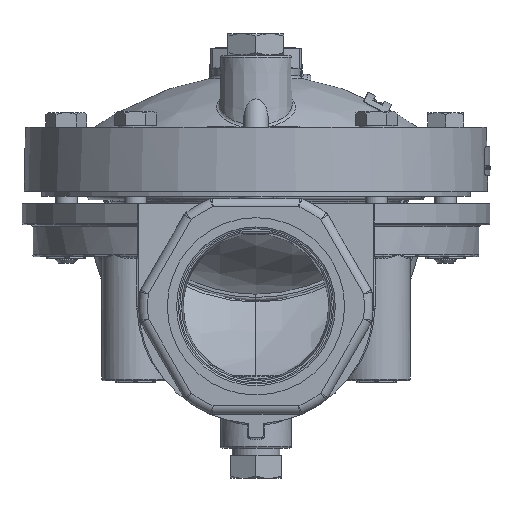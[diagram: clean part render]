
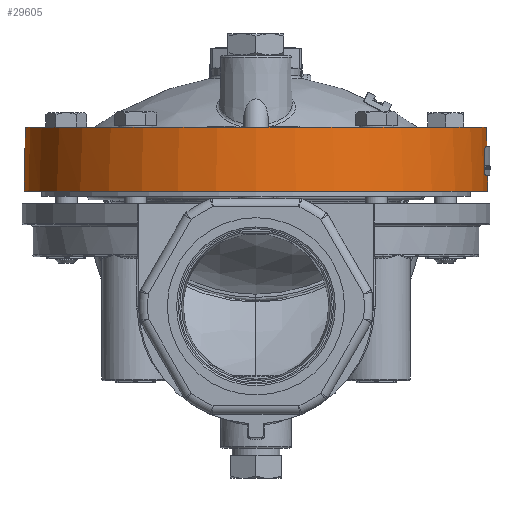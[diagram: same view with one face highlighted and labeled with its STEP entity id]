
A CAD part, left-side view. The second image highlights one B-rep face of the part: STEP entity #29605.
In plain terms, the highlighted conical face has half-angle 1 degrees and reference radius 65.416 mm.
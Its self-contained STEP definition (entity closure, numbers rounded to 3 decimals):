
#26512=CARTESIAN_POINT('',(65.339,2.828,0.));
#26513=VERTEX_POINT('Vertex746',#26512);
#26523=CARTESIAN_POINT('',(65.026,2.789,18.));
#26524=VERTEX_POINT('Vertex747',#26523);
#26525=CARTESIAN_POINT('',(65.182,2.808,9.));
#26526=DIRECTION('',(-0.017,-0.002,1.
));
#26527=VECTOR('',#26526,1.);
#26528=LINE('',#26525,#26527);
#26529=EDGE_CURVE('Edge1123',#26513,#26524,#26528,.T.);
#26531=CARTESIAN_POINT('',(65.018,2.787,18.491)
);
#26532=VERTEX_POINT('Vertex748',#26531);
#26533=CARTESIAN_POINT('',(65.022,2.788,18.246)
);
#26534=DIRECTION('',(-0.017,-0.002,1.
));
#26535=VECTOR('',#26534,1.);
#26536=LINE('',#26533,#26535);
#26537=EDGE_CURVE('Edge1124',#26524,#26532,#26536,.T.);
#26770=CARTESIAN_POINT('',(65.018,-2.787,18.491)
);
#26771=VERTEX_POINT('Vertex743',#26770);
#26779=CARTESIAN_POINT('',(65.026,-2.789,18.));
#26780=VERTEX_POINT('Vertex744',#26779);
#26781=CARTESIAN_POINT('',(65.022,-2.788,18.246)
);
#26782=DIRECTION('',(0.017,-0.002,-1.
));
#26783=VECTOR('',#26782,1.);
#26784=LINE('',#26781,#26783);
#26785=EDGE_CURVE('Edge1120',#26771,#26780,#26784,.T.);
#26787=CARTESIAN_POINT('',(65.339,-2.828,0.));
#26788=VERTEX_POINT('Vertex745',#26787);
#26789=CARTESIAN_POINT('',(65.182,-2.808,9.));
#26790=DIRECTION('',(0.017,-0.002,-1.
));
#26791=VECTOR('',#26790,1.);
#26792=LINE('',#26789,#26791);
#26793=EDGE_CURVE('Edge1121',#26780,#26788,#26792,.T.);
#28580=CARTESIAN_POINT('',(64.898,-4.943,18.));
#28581=VERTEX_POINT('Vertex855',#28580);
#28589=CARTESIAN_POINT('',(64.898,-4.943,18.));
#28590=CARTESIAN_POINT('',(64.905,-4.843,18.)
);
#28591=CARTESIAN_POINT('',(64.913,-4.741,18.002)
);
#28592=CARTESIAN_POINT('',(64.955,-4.148,18.03)
);
#28593=CARTESIAN_POINT('',(64.981,-3.675,18.104)
);
#28594=CARTESIAN_POINT('',(65.003,-3.212,18.225)
);
#28595=CARTESIAN_POINT('',(65.011,-3.027,18.28)
);
#28596=CARTESIAN_POINT('',(65.016,-2.878,18.367)
);
#28597=CARTESIAN_POINT('',(65.017,-2.847,18.389)
);
#28598=CARTESIAN_POINT('',(65.018,-2.812,18.426)
);
#28599=CARTESIAN_POINT('',(65.018,-2.801,18.441)
);
#28600=CARTESIAN_POINT('',(65.018,-2.79,18.468)
);
#28601=CARTESIAN_POINT('',(65.018,-2.787,18.479)
);
#28602=CARTESIAN_POINT('',(65.018,-2.787,18.491)
);
#28603=B_SPLINE_CURVE_WITH_KNOTS('',3,(#28589,#28590,#28591,#28592,#28593,
#28594,#28595,#28596,#28597,#28598,#28599,#28600,#28601,#28602),.UNSPECIFIED.,
.F.,.F.,(4,2,2,2,2,2,4),(5.485,5.85,7.571,
8.215,8.373,8.455,8.512),
.UNSPECIFIED.);
#28604=EDGE_CURVE('Edge1253',#28581,#26771,#28603,.T.);
#29332=CARTESIAN_POINT('',(64.898,4.943,18.));
#29333=VERTEX_POINT('Vertex873',#29332);
#29334=CARTESIAN_POINT('',(65.018,2.787,18.491)
);
#29335=CARTESIAN_POINT('',(65.018,2.787,18.489)
);
#29336=CARTESIAN_POINT('',(65.018,2.788,18.487)
);
#29337=CARTESIAN_POINT('',(65.018,2.789,18.473));
#29338=CARTESIAN_POINT('',(65.018,2.792,18.462));
#29339=CARTESIAN_POINT('',(65.018,2.804,18.437)
);
#29340=CARTESIAN_POINT('',(65.018,2.814,18.424)
);
#29341=CARTESIAN_POINT('',(65.017,2.848,18.388));
#29342=CARTESIAN_POINT('',(65.016,2.878,18.368)
);
#29343=CARTESIAN_POINT('',(65.012,2.987,18.303)
);
#29344=CARTESIAN_POINT('',(65.008,3.096,18.264));
#29345=CARTESIAN_POINT('',(64.991,3.484,18.142));
#29346=CARTESIAN_POINT('',(64.968,3.93,18.06));
#29347=CARTESIAN_POINT('',(64.924,4.584,18.008));
#29348=CARTESIAN_POINT('',(64.911,4.766,18.)
);
#29349=CARTESIAN_POINT('',(64.898,4.943,18.));
#29350=B_SPLINE_CURVE_WITH_KNOTS('',3,(#29334,#29335,#29336,#29337,#29338,
#29339,#29340,#29341,#29342,#29343,#29344,#29345,#29346,#29347,#29348,#29349),
.UNSPECIFIED.,.F.,.F.,(4,2,2,2,2,2,2,4),(2.549,2.558,
2.602,2.663,2.787,3.147,
4.344,4.815),.UNSPECIFIED.);
#29351=EDGE_CURVE('Edge1284',#26532,#29333,#29350,.T.);
#29518=CARTESIAN_POINT('',(0.,0.,0.));
#29519=DIRECTION('',(-0.,0.,1.));
#29520=DIRECTION('',(0.999,0.043,0.));
#29521=AXIS2_PLACEMENT_3D('',#29518,#29519,#29520);
#29522=CIRCLE('',#29521,65.4);
#29523=EDGE_CURVE('Edge1293',#26513,#26788,#29522,.T.);
#29584=ORIENTED_EDGE('Edgeuse2514',*,*,#29523,.T.);
#29585=ORIENTED_EDGE('Edgeuse2515',*,*,#26793,.F.);
#29586=ORIENTED_EDGE('Edgeuse2516',*,*,#26785,.F.);
#29587=ORIENTED_EDGE('Edgeuse2517',*,*,#28604,.F.);
#29588=CARTESIAN_POINT('',(0.,0.,18.));
#29589=DIRECTION('',(0.,0.,1.));
#29590=DIRECTION('',(0.997,0.076,0.));
#29591=AXIS2_PLACEMENT_3D('',#29588,#29589,#29590);
#29592=CIRCLE('',#29591,65.086);
#29593=EDGE_CURVE('Edge1297',#29333,#28581,#29592,.T.);
#29594=ORIENTED_EDGE('Edgeuse2518',*,*,#29593,.F.);
#29595=ORIENTED_EDGE('Edgeuse2519',*,*,#29351,.F.);
#29596=ORIENTED_EDGE('Edgeuse2520',*,*,#26537,.F.);
#29597=ORIENTED_EDGE('Edgeuse2521',*,*,#26529,.F.);
#29598=EDGE_LOOP('',(#29584,#29585,#29586,#29587,#29594,#29595,#29596,#29597));
#29599=FACE_OUTER_BOUND('',#29598,.T.);
#29600=CARTESIAN_POINT('',(0.,0.,
-0.925));
#29601=DIRECTION('',(-0.,-0.,-1.));
#29602=DIRECTION('',(1.,0.,0.));
#29603=AXIS2_PLACEMENT_3D('',#29600,#29601,#29602);
#29604=CONICAL_SURFACE('',#29603,65.416,0.017);
#29605=ADVANCED_FACE('Face532',(#29599),#29604,.T.);
